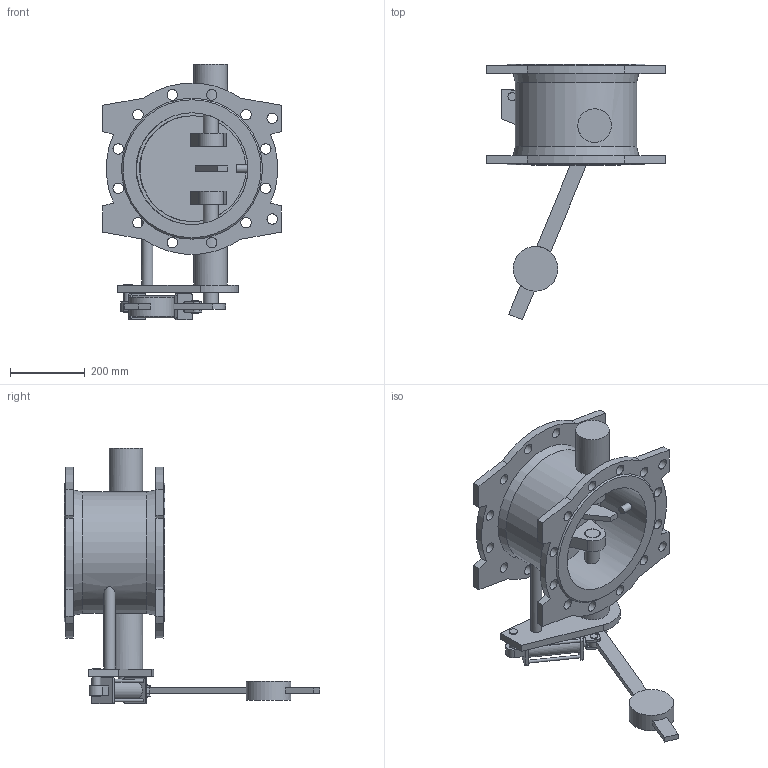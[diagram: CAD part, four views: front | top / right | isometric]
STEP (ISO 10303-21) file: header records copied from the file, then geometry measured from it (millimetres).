
FILE_DESCRIPTION(('STEP AP203'), '1');
FILE_NAME('Êëàïàí 015F.PV DN300 PN16 ñ ïðîòèâîâåñîì ñ äåìïôåðîì', '', ('UNSPECIFIED'), ('UNSPECIFIED'), 'ASCON STEP Converter 1.6', 'ASCON Math Kernel', '');
FILE_SCHEMA(('CONFIG_CONTROL_DESIGN'));
Length unit declared in the file: millimetre
Bounding box: 480 x 685 x 685 mm (x, y, z)
Volume: 13131676.5 mm3; surface area: 1580971.6 mm2
Topology: 1 solids, 1 shells, 191 faces, 473 edges, 313 vertices
Faces by surface type: plane 100, cylinder 82, cone 4, extrusion 2, torus 2, bspline 1
Full cylindrical faces by diameter (mm): 8 x4, 12 x1, 14 x2, 20 x5, 22 x3, 25 x1, 28 x28, 30 x1, 40 x3, 42 x2, 50 x1, 90 x2, 120 x1, 300 x1, 326 x1
Entity records: 9055 total; most frequent: CARTESIAN_POINT 2936, DIRECTION 926, ORIENTED_EDGE 808, EDGE_CURVE 404, EDGE_LOOP 366, AXIS2_PLACEMENT_3D 355, VERTEX_POINT 312, FACE_BOUND 241
